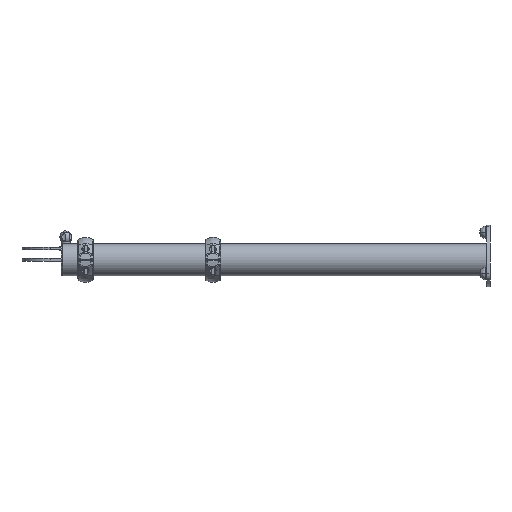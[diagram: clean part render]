
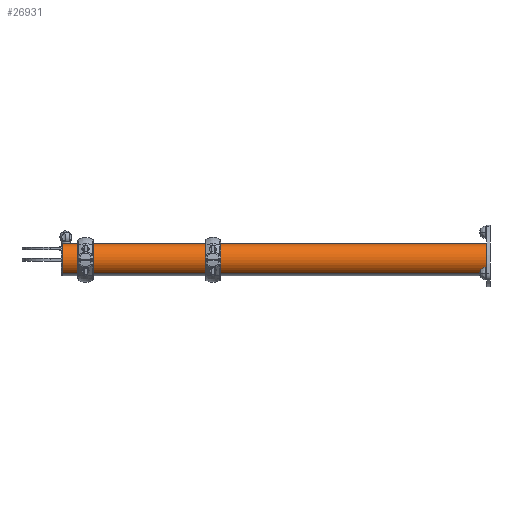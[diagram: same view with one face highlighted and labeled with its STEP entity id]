
A CAD part, left-side view. The second image highlights one B-rep face of the part: STEP entity #26931.
In plain terms, the highlighted cylindrical face has radius 57.15 mm (diameter 114.3 mm), a partial arc.
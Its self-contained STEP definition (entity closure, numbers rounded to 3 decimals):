
#929 = CYLINDRICAL_SURFACE ( 'NONE', #6560, 57.15 ) ;
#2069 = VERTEX_POINT ( 'NONE', #48635 ) ;
#4249 = EDGE_CURVE ( 'NONE', #2069, #33312, #37780, .T. ) ;
#4481 = CARTESIAN_POINT ( 'NONE',  ( 28.575, 12., 49.493 ) ) ;
#6560 = AXIS2_PLACEMENT_3D ( 'NONE', #28745, #17735, #48313 ) ;
#8034 = AXIS2_PLACEMENT_3D ( 'NONE', #18336, #19028, #55424 ) ;
#9446 = LINE ( 'NONE', #46181, #35729 ) ;
#15244 = DIRECTION ( 'NONE',  ( 0.5, 0., 0.866 ) ) ;
#15409 = CARTESIAN_POINT ( 'NONE',  ( -28.575, 1512., -49.493 ) ) ;
#15828 = AXIS2_PLACEMENT_3D ( 'NONE', #46502, #52005, #15244 ) ;
#17735 = DIRECTION ( 'NONE',  ( 0., 1., 0. ) ) ;
#18336 = CARTESIAN_POINT ( 'NONE',  ( 0., 12., 0. ) ) ;
#19028 = DIRECTION ( 'NONE',  ( 0., -1., 0. ) ) ;
#21775 = EDGE_CURVE ( 'NONE', #67110, #2069, #56998, .T. ) ;
#24555 = ORIENTED_EDGE ( 'NONE', *, *, #21775, .T. ) ;
#26931 = ADVANCED_FACE ( 'NONE', ( #53140 ), #929, .T. ) ;
#28745 = CARTESIAN_POINT ( 'NONE',  ( 0., 12., 0. ) ) ;
#29314 = VECTOR ( 'NONE', #45682, 1000. ) ;
#30436 = DIRECTION ( 'NONE',  ( 0., 1., 0. ) ) ;
#30787 = VERTEX_POINT ( 'NONE', #33329 ) ;
#33312 = VERTEX_POINT ( 'NONE', #15409 ) ;
#33329 = CARTESIAN_POINT ( 'NONE',  ( -28.575, 12., -49.493 ) ) ;
#35482 = CIRCLE ( 'NONE', #8034, 57.15 ) ;
#35729 = VECTOR ( 'NONE', #30436, 1000. ) ;
#36399 = EDGE_CURVE ( 'NONE', #67110, #30787, #35482, .T. ) ;
#37423 = ORIENTED_EDGE ( 'NONE', *, *, #36399, .F. ) ;
#37606 = EDGE_LOOP ( 'NONE', ( #37423, #24555, #59342, #61825 ) ) ;
#37780 = CIRCLE ( 'NONE', #15828, 57.15 ) ;
#39962 = EDGE_CURVE ( 'NONE', #30787, #33312, #9446, .T. ) ;
#45682 = DIRECTION ( 'NONE',  ( 0., 1., 0. ) ) ;
#46181 = CARTESIAN_POINT ( 'NONE',  ( -28.575, 12., -49.493 ) ) ;
#46502 = CARTESIAN_POINT ( 'NONE',  ( 0., 1512., 0. ) ) ;
#48313 = DIRECTION ( 'NONE',  ( -0.5, 0., -0.866 ) ) ;
#48635 = CARTESIAN_POINT ( 'NONE',  ( 28.575, 1512., 49.493 ) ) ;
#52005 = DIRECTION ( 'NONE',  ( 0., -1., 0. ) ) ;
#53140 = FACE_OUTER_BOUND ( 'NONE', #37606, .T. ) ;
#55424 = DIRECTION ( 'NONE',  ( 0.5, 0., 0.866 ) ) ;
#56998 = LINE ( 'NONE', #4481, #29314 ) ;
#58469 = CARTESIAN_POINT ( 'NONE',  ( 28.575, 12., 49.493 ) ) ;
#59342 = ORIENTED_EDGE ( 'NONE', *, *, #4249, .T. ) ;
#61825 = ORIENTED_EDGE ( 'NONE', *, *, #39962, .F. ) ;
#67110 = VERTEX_POINT ( 'NONE', #58469 ) ;
